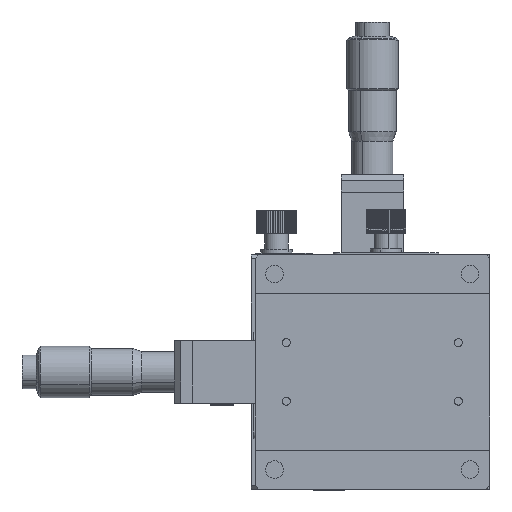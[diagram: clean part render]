
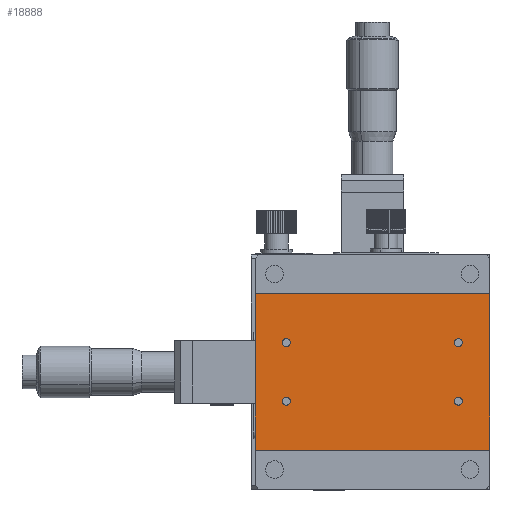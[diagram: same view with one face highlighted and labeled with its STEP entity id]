
A CAD part, top view. The second image highlights one B-rep face of the part: STEP entity #18888.
In plain terms, the highlighted planar face has unit normal (0, 0, 1).
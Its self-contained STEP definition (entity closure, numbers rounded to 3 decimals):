
#298 = CARTESIAN_POINT ( 'NONE',  ( -30., -20., 9.7 ) ) ;
#624 = EDGE_LOOP ( 'NONE', ( #20386, #9709 ) ) ;
#764 = DIRECTION ( 'NONE',  ( 0., 0., 1. ) ) ;
#1194 = ORIENTED_EDGE ( 'NONE', *, *, #13954, .F. ) ;
#1348 = VECTOR ( 'NONE', #10124, 1000. ) ;
#1601 = VERTEX_POINT ( 'NONE', #7774 ) ;
#1726 = VERTEX_POINT ( 'NONE', #17010 ) ;
#1770 = DIRECTION ( 'NONE',  ( 0., 0., 1. ) ) ;
#1785 = DIRECTION ( 'NONE',  ( -1., 0., 0. ) ) ;
#2073 = PLANE ( 'NONE',  #17243 ) ;
#2299 = DIRECTION ( 'NONE',  ( 0., 0., 1. ) ) ;
#2342 = EDGE_LOOP ( 'NONE', ( #20536, #3558, #13875, #8842 ) ) ;
#2970 = VECTOR ( 'NONE', #9962, 1000. ) ;
#3079 = EDGE_CURVE ( 'NONE', #4817, #1601, #15848, .T. ) ;
#3136 = DIRECTION ( 'NONE',  ( 1., 0., 0. ) ) ;
#3190 = VERTEX_POINT ( 'NONE', #13270 ) ;
#3196 = CARTESIAN_POINT ( 'NONE',  ( 23.025, -7.5, 9.7 ) ) ;
#3558 = ORIENTED_EDGE ( 'NONE', *, *, #20543, .F. ) ;
#3581 = ORIENTED_EDGE ( 'NONE', *, *, #5537, .F. ) ;
#3743 = EDGE_LOOP ( 'NONE', ( #1194, #12920 ) ) ;
#4071 = CIRCLE ( 'NONE', #20680, 1.025 ) ;
#4242 = CARTESIAN_POINT ( 'NONE',  ( -22., -7.5, 9.7 ) ) ;
#4369 = LINE ( 'NONE', #21085, #15565 ) ;
#4817 = VERTEX_POINT ( 'NONE', #10565 ) ;
#4988 = DIRECTION ( 'NONE',  ( 0., 0., 1. ) ) ;
#5195 = CARTESIAN_POINT ( 'NONE',  ( -30., -20., 9.7 ) ) ;
#5349 = DIRECTION ( 'NONE',  ( 0., 0., 1. ) ) ;
#5439 = EDGE_LOOP ( 'NONE', ( #7291, #3581 ) ) ;
#5537 = EDGE_CURVE ( 'NONE', #19133, #15920, #11447, .T. ) ;
#5566 = CARTESIAN_POINT ( 'NONE',  ( 22., 7.5, 9.7 ) ) ;
#5661 = EDGE_CURVE ( 'NONE', #20739, #9578, #6117, .T. ) ;
#5750 = CARTESIAN_POINT ( 'NONE',  ( -22., 7.5, 9.7 ) ) ;
#6117 = CIRCLE ( 'NONE', #10979, 1.025 ) ;
#6460 = DIRECTION ( 'NONE',  ( 1., 0., 0. ) ) ;
#6640 = DIRECTION ( 'NONE',  ( 0., 0., -1. ) ) ;
#6694 = FACE_BOUND ( 'NONE', #624, .T. ) ;
#7215 = CIRCLE ( 'NONE', #16045, 1.025 ) ;
#7291 = ORIENTED_EDGE ( 'NONE', *, *, #11398, .F. ) ;
#7704 = DIRECTION ( 'NONE',  ( 0., 0., 1. ) ) ;
#7769 = CARTESIAN_POINT ( 'NONE',  ( 22., 7.5, 9.7 ) ) ;
#7774 = CARTESIAN_POINT ( 'NONE',  ( 30., 20., 9.7 ) ) ;
#8283 = CARTESIAN_POINT ( 'NONE',  ( -30., 20., 9.7 ) ) ;
#8302 = DIRECTION ( 'NONE',  ( 0., 1., 0. ) ) ;
#8385 = AXIS2_PLACEMENT_3D ( 'NONE', #4242, #17696, #20996 ) ;
#8616 = CARTESIAN_POINT ( 'NONE',  ( 23.025, 7.5, 9.7 ) ) ;
#8632 = DIRECTION ( 'NONE',  ( 1., 0., 0. ) ) ;
#8842 = ORIENTED_EDGE ( 'NONE', *, *, #9551, .T. ) ;
#8991 = DIRECTION ( 'NONE',  ( 1., 0., 0. ) ) ;
#9071 = AXIS2_PLACEMENT_3D ( 'NONE', #5750, #764, #18651 ) ;
#9089 = CIRCLE ( 'NONE', #9071, 1.025 ) ;
#9200 = DIRECTION ( 'NONE',  ( 0., 0., 1. ) ) ;
#9482 = CARTESIAN_POINT ( 'NONE',  ( 22., -7.5, 9.7 ) ) ;
#9551 = EDGE_CURVE ( 'NONE', #17825, #4817, #20491, .T. ) ;
#9578 = VERTEX_POINT ( 'NONE', #18311 ) ;
#9709 = ORIENTED_EDGE ( 'NONE', *, *, #16181, .F. ) ;
#9833 = CARTESIAN_POINT ( 'NONE',  ( 22., -7.5, 9.7 ) ) ;
#9962 = DIRECTION ( 'NONE',  ( 0., 1., 0. ) ) ;
#10124 = DIRECTION ( 'NONE',  ( 1., 0., 0. ) ) ;
#10128 = VERTEX_POINT ( 'NONE', #13790 ) ;
#10443 = CIRCLE ( 'NONE', #19171, 1.025 ) ;
#10565 = CARTESIAN_POINT ( 'NONE',  ( 30., -20., 9.7 ) ) ;
#10840 = CIRCLE ( 'NONE', #8385, 1.025 ) ;
#10979 = AXIS2_PLACEMENT_3D ( 'NONE', #14625, #1770, #3136 ) ;
#11107 = LINE ( 'NONE', #18137, #2970 ) ;
#11168 = VERTEX_POINT ( 'NONE', #8616 ) ;
#11398 = EDGE_CURVE ( 'NONE', #15920, #19133, #7215, .T. ) ;
#11420 = CARTESIAN_POINT ( 'NONE',  ( 30., -20., 9.7 ) ) ;
#11447 = CIRCLE ( 'NONE', #16428, 1.025 ) ;
#12018 = FACE_BOUND ( 'NONE', #15959, .T. ) ;
#12281 = VECTOR ( 'NONE', #8302, 1000. ) ;
#12920 = ORIENTED_EDGE ( 'NONE', *, *, #19036, .F. ) ;
#13033 = FACE_OUTER_BOUND ( 'NONE', #2342, .T. ) ;
#13270 = CARTESIAN_POINT ( 'NONE',  ( -20.975, 7.5, 9.7 ) ) ;
#13790 = CARTESIAN_POINT ( 'NONE',  ( 20.975, 7.5, 9.7 ) ) ;
#13835 = EDGE_CURVE ( 'NONE', #3190, #1726, #4071, .T. ) ;
#13875 = ORIENTED_EDGE ( 'NONE', *, *, #15893, .F. ) ;
#13954 = EDGE_CURVE ( 'NONE', #11168, #10128, #10443, .T. ) ;
#14625 = CARTESIAN_POINT ( 'NONE',  ( -22., -7.5, 9.7 ) ) ;
#14810 = FACE_BOUND ( 'NONE', #5439, .T. ) ;
#15044 = AXIS2_PLACEMENT_3D ( 'NONE', #5566, #2299, #8991 ) ;
#15073 = FACE_BOUND ( 'NONE', #3743, .T. ) ;
#15565 = VECTOR ( 'NONE', #6460, 1000. ) ;
#15764 = CARTESIAN_POINT ( 'NONE',  ( -30., -20., 9.7 ) ) ;
#15848 = LINE ( 'NONE', #11420, #12281 ) ;
#15893 = EDGE_CURVE ( 'NONE', #17825, #20909, #11107, .T. ) ;
#15920 = VERTEX_POINT ( 'NONE', #3196 ) ;
#15959 = EDGE_LOOP ( 'NONE', ( #20375, #20628 ) ) ;
#16045 = AXIS2_PLACEMENT_3D ( 'NONE', #9833, #4988, #18015 ) ;
#16181 = EDGE_CURVE ( 'NONE', #1726, #3190, #9089, .T. ) ;
#16313 = EDGE_CURVE ( 'NONE', #9578, #20739, #10840, .T. ) ;
#16428 = AXIS2_PLACEMENT_3D ( 'NONE', #9482, #7704, #19368 ) ;
#16591 = CARTESIAN_POINT ( 'NONE',  ( -22., 7.5, 9.7 ) ) ;
#17010 = CARTESIAN_POINT ( 'NONE',  ( -23.025, 7.5, 9.7 ) ) ;
#17243 = AXIS2_PLACEMENT_3D ( 'NONE', #298, #6640, #1785 ) ;
#17553 = CARTESIAN_POINT ( 'NONE',  ( -20.975, -7.5, 9.7 ) ) ;
#17696 = DIRECTION ( 'NONE',  ( 0., 0., 1. ) ) ;
#17825 = VERTEX_POINT ( 'NONE', #15764 ) ;
#18015 = DIRECTION ( 'NONE',  ( 1., 0., 0. ) ) ;
#18137 = CARTESIAN_POINT ( 'NONE',  ( -30., -20., 9.7 ) ) ;
#18311 = CARTESIAN_POINT ( 'NONE',  ( -23.025, -7.5, 9.7 ) ) ;
#18651 = DIRECTION ( 'NONE',  ( 1., 0., 0. ) ) ;
#18888 = ADVANCED_FACE ( 'NONE', ( #6694, #12018, #14810, #15073, #13033 ), #2073, .F. ) ;
#19036 = EDGE_CURVE ( 'NONE', #10128, #11168, #20698, .T. ) ;
#19092 = DIRECTION ( 'NONE',  ( 1., 0., 0. ) ) ;
#19133 = VERTEX_POINT ( 'NONE', #20380 ) ;
#19171 = AXIS2_PLACEMENT_3D ( 'NONE', #7769, #9200, #19092 ) ;
#19368 = DIRECTION ( 'NONE',  ( 1., 0., 0. ) ) ;
#20375 = ORIENTED_EDGE ( 'NONE', *, *, #5661, .F. ) ;
#20380 = CARTESIAN_POINT ( 'NONE',  ( 20.975, -7.5, 9.7 ) ) ;
#20386 = ORIENTED_EDGE ( 'NONE', *, *, #13835, .F. ) ;
#20491 = LINE ( 'NONE', #5195, #1348 ) ;
#20536 = ORIENTED_EDGE ( 'NONE', *, *, #3079, .T. ) ;
#20543 = EDGE_CURVE ( 'NONE', #20909, #1601, #4369, .T. ) ;
#20628 = ORIENTED_EDGE ( 'NONE', *, *, #16313, .F. ) ;
#20680 = AXIS2_PLACEMENT_3D ( 'NONE', #16591, #5349, #8632 ) ;
#20698 = CIRCLE ( 'NONE', #15044, 1.025 ) ;
#20739 = VERTEX_POINT ( 'NONE', #17553 ) ;
#20909 = VERTEX_POINT ( 'NONE', #8283 ) ;
#20996 = DIRECTION ( 'NONE',  ( 1., 0., 0. ) ) ;
#21085 = CARTESIAN_POINT ( 'NONE',  ( -30., 20., 9.7 ) ) ;
